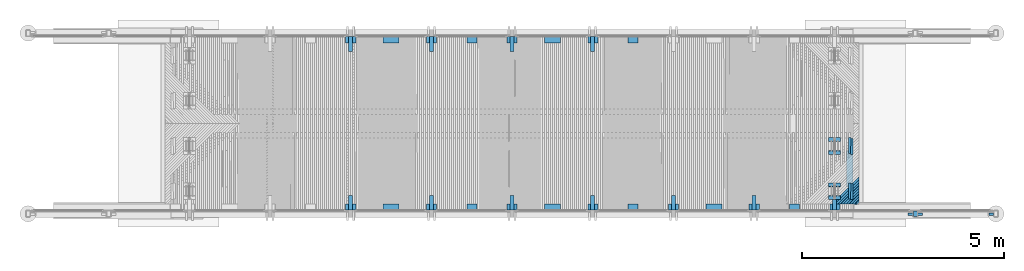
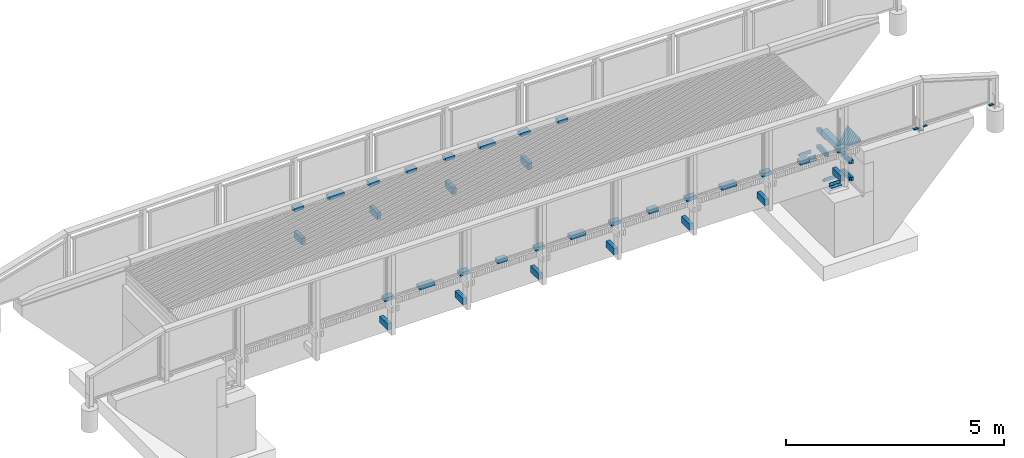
# One storey, part 53 of 65: 58 beams.
"""IFC2X3 building model written with IfcOpenShell, lengths in millimetres."""

from ifc_helpers import new_model, si_unit, frame, origin_with_axes, place, context, subcontext, project, spatial, faceted_brep, material, type_object, element, save


model = new_model("IFC2X3")

# Units and contexts
model_context = context("Model", 3, precision=1e-05, world=origin_with_axes())
body_context = subcontext(model_context, "Body", "Model", "MODEL_VIEW")
ifc_project = project(units=[si_unit("LENGTHUNIT", "METRE", prefix="MILLI"), si_unit("AREAUNIT", "SQUARE_METRE"), si_unit("VOLUMEUNIT", "CUBIC_METRE"), si_unit("MASSUNIT", "GRAM", prefix="KILO"), si_unit("TIMEUNIT", "SECOND"), si_unit("PLANEANGLEUNIT", "RADIAN"), si_unit("SOLIDANGLEUNIT", "STERADIAN"), si_unit("THERMODYNAMICTEMPERATUREUNIT", "DEGREE_CELSIUS"), si_unit("LUMINOUSINTENSITYUNIT", "LUMEN")], contexts=[model_context])

# Site, building, storey
site_placement = place(None, origin_with_axes())
site = spatial("IfcSite", under=ifc_project, at=site_placement, Name="Undefined", CompositionType="ELEMENT")
building_placement = place(site_placement, origin_with_axes())
building = spatial("IfcBuilding", under=site, at=building_placement, Name="Undefined", CompositionType="ELEMENT")
storey_placement = place(building_placement, origin_with_axes())
storey = spatial("IfcBuildingStorey", under=building, at=storey_placement, Name="Undefined", CompositionType="ELEMENT", Elevation=0.0)

# Beams
ifc_material_1 = material(Name="STEEL/AISI316")
beam_type_1 = type_object("IfcBeamType", Name="PL60*10", PredefinedType="NOTDEFINED")
for number, where, z_axis, x_axis in (
    (1, (19940.0034960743, 20109.9999997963, 3147.80999999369), (0.000116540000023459, 0.999999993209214, 0.0), (-0.999999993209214, 0.000116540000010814, 0.0)),
    (2, (18059.9965039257, 20109.9999997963, 3175.9199999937), (-0.000116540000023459, 0.999999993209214, 0.0), (0.999999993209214, 0.000116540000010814, 0.0)),
    (3, (17940.0034960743, 20109.9999997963, 3175.91999999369), (0.000116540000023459, 0.999999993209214, 0.0), (-0.999999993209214, 0.000116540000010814, 0.0)),
):
    element("IfcBeam", number, at=place(storey_placement, frame(where, z_axis=z_axis, x_axis=x_axis)), inside=storey, type_object=beam_type_1, material=ifc_material_1, Name="KAIDEPYLVÄS", ObjectType="PL60*10", context=body_context, shape_type="Brep", body=[
        faceted_brep([(0.0, 5.0, -30.0), (0.0, 5.0, 30.0), (115.000000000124, 5.0, 30.0), (115.00000000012, 5.0, -30.0), (0.0, -5.0, 30.0), (115.000000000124, -5.0, 30.0), (0.0, -5.0, -30.0), (115.00000000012, -5.0, -30.0)], [[[0, 1, 2, 3]], [[1, 4, 5, 2]], [[4, 6, 7, 5]], [[6, 0, 3, 7]], [[5, 7, 3, 2]], [[6, 4, 1, 0]]]),
    ])
beam_type_2 = type_object("IfcBeamType", Name="PL100*10", PredefinedType="NOTDEFINED")
beam_1_placement = place(storey_placement, frame((17999.9999998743, 20055.02, 3117.67000000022), z_axis=(1.0, 0.0, 0.0), x_axis=(0.0, 1.0, 0.0)))
element("IfcBeam", 4, at=beam_1_placement, inside=storey, type_object=beam_type_2, material=ifc_material_1, Name="KAIDEPYLVÄS", ObjectType="PL100*10", context=body_context, shape_type="Brep", body=[
    faceted_brep([(0.0, 5.0, -50.0), (0.0, 5.0, 50.0), (140.0, 5.0, 50.0), (140.0, 5.0, -50.0), (0.0, -5.0, 50.0), (140.0, -5.0, 50.0), (0.0, -5.0, -50.0), (140.0, -5.0, -50.0)], [[[0, 1, 2, 3]], [[1, 4, 5, 2]], [[4, 6, 7, 5]], [[6, 0, 3, 7]], [[5, 7, 3, 2]], [[6, 4, 1, 0]]]),
])
ifc_material_2 = material(Name="TIMBER/Timber_Undefined")
beam_type_3 = type_object("IfcBeamType", Name="150*100", PredefinedType="NOTDEFINED")
for number, where, z_axis, x_axis in (
    (5, (12805.9377995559, 20289.9999999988, 3199.40960826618), (0.0, -1.0, 0.0), (0.999944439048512, 0.0, -0.0105412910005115)),
    (6, (8804.3535367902, 20289.9999999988, 3218.05327472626), (0.0, -1.0, 0.0), (0.999992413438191, 0.0, -0.00389526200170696)),
    (7, (4802.73374412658, 20289.9999999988, 3210.1013407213), (0.0, -1.0, 0.0), (0.9999962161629, 0.0, 0.002750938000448)),
    (8, (4802.73374412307, 24439.9999999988, 3210.10134072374), (0.0, -1.0, 0.0), (0.9999962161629, 0.0, 0.002750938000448)),
    (9, (8804.3535367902, 24439.9999999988, 3218.05327472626), (0.0, -1.0, 0.0), (0.999992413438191, 0.0, -0.00389526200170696)),
):
    element("IfcBeam", number, at=place(storey_placement, frame(where, z_axis=z_axis, x_axis=x_axis)), inside=storey, type_object=beam_type_3, material=ifc_material_2, Name="TÖRMÄYSJOHDE", ObjectType="150*100", context=body_context, shape_type="Brep", body=[
        faceted_brep([(-3.63797880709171e-12, 50.0, -75.0), (-3.63797880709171e-12, 50.0, 75.0), (399.996161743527, 49.9999999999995, 75.0), (399.996161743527, 49.9999999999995, -75.0), (0.0, -49.9999999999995, 75.0), (399.996161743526, -50.0000000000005, 75.0), (0.0, -49.9999999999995, -75.0), (399.996161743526, -50.0000000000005, -75.0)], [[[0, 1, 2, 3]], [[1, 4, 5, 2]], [[4, 6, 7, 5]], [[6, 0, 3, 7]], [[5, 7, 3, 2]], [[6, 4, 1, 0]]]),
    ])
for number, where, z_axis, x_axis in (
    (10, (15881.7966501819, 20289.9999999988, 3166.35655532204), (0.0, -1.0, 0.0), (0.999929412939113, 0.0, -0.0118814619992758)),
    (11, (14881.4642555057, 20289.9999999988, 3178.62153167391), (0.0, -1.0, 0.0), (0.999947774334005, 0.0, -0.0102200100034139)),
    (12, (13881.1128627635, 20289.9999999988, 3189.22438612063), (0.0, -1.0, 0.0), (0.99996337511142, 0.0, -0.00855853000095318)),
    (13, (11880.3641300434, 20289.9999999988, 3205.44361680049), (0.0, -1.0, 0.0), (0.999986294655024, 0.0, -0.00523550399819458)),
    (14, (10879.9723136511, 24439.9999999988, 3211.05994825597), (0.0, -1.0, 0.0), (0.999993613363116, 0.0, -0.00357396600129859)),
    (15, (10879.9723136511, 20289.9999999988, 3211.05994825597), (0.0, -1.0, 0.0), (0.999993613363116, 0.0, -0.00357396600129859)),
    (16, (9879.57254634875, 24439.9999999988, 3215.01406825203), (0.0, -1.0, 0.0), (0.999998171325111, 0.0, -0.00191241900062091)),
    (17, (9879.57254634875, 20289.9999999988, 3215.01406825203), (0.0, -1.0, 0.0), (0.999998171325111, 0.0, -0.00191241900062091)),
    (18, (7878.76020647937, 24439.9999999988, 3217.93563478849), (0.0, -1.0, 0.0), (0.99999900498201, 0.0, 0.00141068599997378)),
    (19, (7878.76020647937, 20289.9999999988, 3217.93563478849), (0.0, -1.0, 0.0), (0.99999900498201, 0.0, 0.00141068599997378)),
    (20, (6878.35315767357, 24439.9999999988, 3216.90307326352), (0.0, -1.0, 0.0), (0.99999528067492, 0.0, 0.00307223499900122)),
    (21, (6878.35315767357, 20289.9999999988, 3216.90307326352), (0.0, -1.0, 0.0), (0.99999528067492, 0.0, 0.00307223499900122)),
    (22, (5877.94920546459, 24439.9999999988, 3214.20828414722), (0.0, -1.0, 0.0), (0.99998879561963, 0.0, 0.00473377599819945)),
    (23, (5877.94920546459, 20289.9999999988, 3214.20828414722), (0.0, -1.0, 0.0), (0.99998879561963, 0.0, 0.00473377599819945)),
    (24, (3877.16163831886, 24439.9999999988, 3203.83205748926), (0.0, -1.0, 0.0), (0.999967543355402, 0.0, 0.00805681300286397)),
    (25, (3877.16163831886, 20289.9999999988, 3203.83205748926), (0.0, -1.0, 0.0), (0.999967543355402, 0.0, 0.00805681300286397)),
):
    element("IfcBeam", number, at=place(storey_placement, frame(where, z_axis=z_axis, x_axis=x_axis)), inside=storey, type_object=beam_type_3, material=ifc_material_2, Name="TÖRMÄYSJOHDE", ObjectType="150*100", context=body_context, shape_type="Brep", body=[
        faceted_brep([(-3.63797880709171e-12, 50.0, -75.0), (-3.63797880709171e-12, 50.0, 75.0), (250.000589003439, 50.0000000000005, 75.0), (250.000589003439, 50.0000000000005, -75.0), (0.0, -49.9999999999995, 75.0), (250.000589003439, -50.0, 75.0), (0.0, -49.9999999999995, -75.0), (250.000589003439, -50.0, -75.0)], [[[0, 1, 2, 3]], [[1, 4, 5, 2]], [[4, 6, 7, 5]], [[6, 0, 3, 7]], [[5, 7, 3, 2]], [[6, 4, 1, 0]]]),
    ])
beam_type_4 = type_object("IfcBeamType", Name="150*150", PredefinedType="NOTDEFINED")
beam_2_placement = place(storey_placement, frame((16375.0061224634, 20795.0011300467, 2658.99214114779), z_axis=(-4.45050000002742e-05, 0.0, 0.999999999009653), x_axis=(0.0, 1.0, 0.0)))
element("IfcBeam", 26, at=beam_2_placement, inside=storey, type_object=beam_type_4, material=ifc_material_2, Name="BEAM", ObjectType="150*150", context=body_context, shape_type="Brep", body=[
    faceted_brep([(3.63797880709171e-12, 75.0000000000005, -75.0), (3.63797880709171e-12, 75.0000000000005, 75.0), (900.0, 75.0, 75.0000000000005), (900.0, 74.9999999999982, -74.9999999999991), (0.0, -75.0000000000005, 75.0), (900.0, -75.0000000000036, 75.0000000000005), (0.0, -75.0000000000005, -75.0), (900.0, -75.0, -74.9999999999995)], [[[0, 1, 2, 3]], [[1, 4, 5, 2]], [[4, 6, 7, 5]], [[6, 0, 3, 7]], [[5, 7, 3, 2]], [[6, 4, 1, 0]]]),
])
beam_type_5 = type_object("IfcBeamType", Name="180*100", PredefinedType="NOTDEFINED")
for number, where, z_axis, x_axis in (
    (27, (16000.0000678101, 20215.0120919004, 2385.26004297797), (0.0, 0.0, 1.0), (0.0, 1.0, 0.0)),
    (28, (14000.0000678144, 20215.0120919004, 2408.46176690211), (0.0, 0.0, 1.0), (0.0, 1.0, 0.0)),
    (29, (12000.0000678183, 20215.0120919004, 2425.03388065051), (0.0, 0.0, 1.0), (0.0, 1.0, 0.0)),
):
    element("IfcBeam", number, at=place(storey_placement, frame(where, z_axis=z_axis, x_axis=x_axis)), inside=storey, type_object=beam_type_5, material=ifc_material_2, Name="KAIDEPYLVÄS", ObjectType="180*100", context=body_context, shape_type="Brep", body=[
        faceted_brep([(0.0, 50.0, -90.0), (0.0, 50.0, 90.0), (363.740000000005, 50.0, 90.0), (363.740000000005, 50.0, -90.0), (0.0, -50.0, 90.0), (363.740000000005, -50.0, 90.0), (0.0, -50.0, -90.0), (363.740000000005, -50.0, -90.0)], [[[0, 1, 2, 3]], [[1, 4, 5, 2]], [[4, 6, 7, 5]], [[6, 0, 3, 7]], [[5, 7, 3, 2]], [[6, 4, 1, 0]]]),
    ])
beam_3_placement = place(storey_placement, frame((10000.0000678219, 24514.9879080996, 2434.97693042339), z_axis=(0.0, 0.0, 1.0), x_axis=(0.0, -1.0, 0.0)))
element("IfcBeam", 30, at=beam_3_placement, inside=storey, type_object=beam_type_5, material=ifc_material_2, Name="KAIDEPYLVÄS", ObjectType="180*100", context=body_context, shape_type="Brep", body=[
    faceted_brep([(0.0, 50.0, -90.0), (0.0, 50.0, 90.0), (362.490000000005, 50.0, 90.0), (362.490000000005, 50.0, -90.0), (0.0, -50.0, 90.0), (362.490000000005, -50.0, 90.0), (0.0, -50.0, -90.0), (362.490000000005, -50.0, -90.0)], [[[0, 1, 2, 3]], [[1, 4, 5, 2]], [[4, 6, 7, 5]], [[6, 0, 3, 7]], [[5, 7, 3, 2]], [[6, 4, 1, 0]]]),
])
beam_4_placement = place(storey_placement, frame((10000.0000678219, 20215.0120919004, 2434.97693042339), z_axis=(0.0, 0.0, 1.0), x_axis=(0.0, 1.0, 0.0)))
element("IfcBeam", 31, at=beam_4_placement, inside=storey, type_object=beam_type_5, material=ifc_material_2, Name="KAIDEPYLVÄS", ObjectType="180*100", context=body_context, shape_type="Brep", body=[
    faceted_brep([(0.0, 50.0, -90.0), (0.0, 50.0, 90.0), (363.740000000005, 50.0, 90.0), (363.740000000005, 50.0, -90.0), (0.0, -50.0, 90.0), (363.740000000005, -50.0, 90.0), (0.0, -50.0, -90.0), (363.740000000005, -50.0, -90.0)], [[[0, 1, 2, 3]], [[1, 4, 5, 2]], [[4, 6, 7, 5]], [[6, 0, 3, 7]], [[5, 7, 3, 2]], [[6, 4, 1, 0]]]),
])
beam_5_placement = place(storey_placement, frame((8000.00006782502, 24514.9879080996, 2438.29124390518), z_axis=(0.0, 0.0, 1.0), x_axis=(0.0, -1.0, 0.0)))
element("IfcBeam", 32, at=beam_5_placement, inside=storey, type_object=beam_type_5, material=ifc_material_2, Name="KAIDEPYLVÄS", ObjectType="180*100", context=body_context, shape_type="Brep", body=[
    faceted_brep([(0.0, 50.0, -90.0), (0.0, 50.0, 90.0), (362.490000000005, 50.0, 90.0), (362.490000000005, 50.0, -90.0), (0.0, -50.0, 90.0), (362.490000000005, -50.0, 90.0), (0.0, -50.0, -90.0), (362.490000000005, -50.0, -90.0)], [[[0, 1, 2, 3]], [[1, 4, 5, 2]], [[4, 6, 7, 5]], [[6, 0, 3, 7]], [[5, 7, 3, 2]], [[6, 4, 1, 0]]]),
])
beam_6_placement = place(storey_placement, frame((8000.00006782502, 20215.0120919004, 2438.29124390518), z_axis=(0.0, 0.0, 1.0), x_axis=(0.0, 1.0, 0.0)))
element("IfcBeam", 33, at=beam_6_placement, inside=storey, type_object=beam_type_5, material=ifc_material_2, Name="KAIDEPYLVÄS", ObjectType="180*100", context=body_context, shape_type="Brep", body=[
    faceted_brep([(0.0, 50.0, -90.0), (0.0, 50.0, 90.0), (363.740000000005, 50.0, 90.0), (363.740000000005, 50.0, -90.0), (0.0, -50.0, 90.0), (363.740000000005, -50.0, 90.0), (0.0, -50.0, -90.0), (363.740000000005, -50.0, -90.0)], [[[0, 1, 2, 3]], [[1, 4, 5, 2]], [[4, 6, 7, 5]], [[6, 0, 3, 7]], [[5, 7, 3, 2]], [[6, 4, 1, 0]]]),
])
beam_7_placement = place(storey_placement, frame((6000.00006782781, 24514.9879080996, 2434.97693031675), z_axis=(0.0, 0.0, 1.0), x_axis=(0.0, -1.0, 0.0)))
element("IfcBeam", 34, at=beam_7_placement, inside=storey, type_object=beam_type_5, material=ifc_material_2, Name="KAIDEPYLVÄS", ObjectType="180*100", context=body_context, shape_type="Brep", body=[
    faceted_brep([(0.0, 50.0, -90.0), (0.0, 50.0, 90.0), (362.490000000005, 50.0, 90.0), (362.490000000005, 50.0, -90.0), (0.0, -50.0, 90.0), (362.490000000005, -50.0, 90.0), (0.0, -50.0, -90.0), (362.490000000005, -50.0, -90.0)], [[[0, 1, 2, 3]], [[1, 4, 5, 2]], [[4, 6, 7, 5]], [[6, 0, 3, 7]], [[5, 7, 3, 2]], [[6, 4, 1, 0]]]),
])
beam_8_placement = place(storey_placement, frame((6000.00006782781, 20215.0120919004, 2434.97693031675), z_axis=(0.0, 0.0, 1.0), x_axis=(0.0, 1.0, 0.0)))
element("IfcBeam", 35, at=beam_8_placement, inside=storey, type_object=beam_type_5, material=ifc_material_2, Name="KAIDEPYLVÄS", ObjectType="180*100", context=body_context, shape_type="Brep", body=[
    faceted_brep([(0.0, 50.0, -90.0), (0.0, 50.0, 90.0), (363.740000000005, 50.0, 90.0), (363.740000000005, 50.0, -90.0), (0.0, -50.0, 90.0), (363.740000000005, -50.0, 90.0), (0.0, -50.0, -90.0), (363.740000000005, -50.0, -90.0)], [[[0, 1, 2, 3]], [[1, 4, 5, 2]], [[4, 6, 7, 5]], [[6, 0, 3, 7]], [[5, 7, 3, 2]], [[6, 4, 1, 0]]]),
])
beam_9_placement = place(storey_placement, frame((4000.00006783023, 24514.9879080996, 2425.03388043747), z_axis=(0.0, 0.0, 1.0), x_axis=(0.0, -1.0, 0.0)))
element("IfcBeam", 36, at=beam_9_placement, inside=storey, type_object=beam_type_5, material=ifc_material_2, Name="KAIDEPYLVÄS", ObjectType="180*100", context=body_context, shape_type="Brep", body=[
    faceted_brep([(0.0, 50.0, -90.0), (0.0, 50.0, 90.0), (362.490000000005, 50.0, 90.0), (362.490000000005, 50.0, -90.0), (0.0, -50.0, 90.0), (362.490000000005, -50.0, 90.0), (0.0, -50.0, -90.0), (362.490000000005, -50.0, -90.0)], [[[0, 1, 2, 3]], [[1, 4, 5, 2]], [[4, 6, 7, 5]], [[6, 0, 3, 7]], [[5, 7, 3, 2]], [[6, 4, 1, 0]]]),
])
beam_10_placement = place(storey_placement, frame((4000.00006783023, 20215.0120919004, 2425.03388043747), z_axis=(0.0, 0.0, 1.0), x_axis=(0.0, 1.0, 0.0)))
element("IfcBeam", 37, at=beam_10_placement, inside=storey, type_object=beam_type_5, material=ifc_material_2, Name="KAIDEPYLVÄS", ObjectType="180*100", context=body_context, shape_type="Brep", body=[
    faceted_brep([(0.0, 50.0, -90.0), (0.0, 50.0, 90.0), (363.740000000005, 50.0, 90.0), (363.740000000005, 50.0, -90.0), (0.0, -50.0, 90.0), (363.740000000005, -50.0, 90.0), (0.0, -50.0, -90.0), (363.740000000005, -50.0, -90.0)], [[[0, 1, 2, 3]], [[1, 4, 5, 2]], [[4, 6, 7, 5]], [[6, 0, 3, 7]], [[5, 7, 3, 2]], [[6, 4, 1, 0]]]),
])
beam_type_6 = type_object("IfcBeamType", Name="50*50", PredefinedType="NOTDEFINED")
beam_11_placement = place(storey_placement, frame((18531.7317784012, 22364.5001003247, 3144.0077743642), z_axis=(0.706781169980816, -0.706981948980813, -0.0252369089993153), x_axis=(-0.707258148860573, -0.706948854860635, -0.00303767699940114)))
element("IfcBeam", 38, at=beam_11_placement, inside=storey, type_object=beam_type_6, material=ifc_material_2, Name="BEAM", ObjectType="50*50", context=body_context, shape_type="Brep", body=[
    faceted_brep([(2802.92643296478, -25.0, 25.0000000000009), (2852.92877373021, -25.0000000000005, -24.9999999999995), (2854.34301907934, 24.9999999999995, -25.0), (2804.3406783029, 25.0, 25.0000000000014), (2705.75872714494, 25.0, -24.9999999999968), (2755.72500686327, 25.0000000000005, 25.0000000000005), (2756.83447595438, -25.0, 25.0000000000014), (2706.86819623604, -25.0, -24.9999999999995)], [[[0, 1, 2, 3]], [[3, 2, 4, 5]], [[0, 3, 5, 6]], [[1, 0, 6, 7]], [[2, 1, 7, 4]], [[6, 5, 4, 7]]]),
])
beam_12_placement = place(storey_placement, frame((18461.0182922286, 22364.5001003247, 3145.24068549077), z_axis=(0.706784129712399, -0.70698194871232, -0.0251538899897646), x_axis=(-0.70725778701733, -0.706948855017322, -0.00312075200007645)))
element("IfcBeam", 39, at=beam_12_placement, inside=storey, type_object=beam_type_6, material=ifc_material_2, Name="BEAM", ObjectType="50*50", context=body_context, shape_type="Brep", body=[
    faceted_brep([(2802.92643296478, -25.0, 25.0000000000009), (2852.92877373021, -25.0000000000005, -24.9999999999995), (2854.34301907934, 24.9999999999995, -25.0), (2804.3406783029, 25.0, 25.0000000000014), (2605.78153801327, 24.9999999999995, -25.0000000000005), (2655.74805253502, 24.9999999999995, 24.9999999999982), (2656.84922092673, -25.0000000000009, 24.9999999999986), (2606.88270640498, -25.0000000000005, -25.0000000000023)], [[[0, 1, 2, 3]], [[3, 2, 4, 5]], [[0, 3, 5, 6]], [[1, 0, 6, 7]], [[2, 1, 7, 4]], [[6, 5, 4, 7]]]),
])
beam_13_placement = place(storey_placement, frame((18390.3046617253, 22364.5001003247, 3146.4652905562), z_axis=(0.70678707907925, -0.706981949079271, -0.0250708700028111), x_axis=(-0.707257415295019, -0.70694885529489, -0.00320382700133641)))
element("IfcBeam", 40, at=beam_13_placement, inside=storey, type_object=beam_type_6, material=ifc_material_2, Name="BEAM", ObjectType="50*50", context=body_context, shape_type="Brep", body=[
    faceted_brep([(2802.92643296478, -25.0, 25.0000000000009), (2852.92877373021, -25.0000000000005, -24.9999999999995), (2854.34301907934, 24.9999999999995, -25.0), (2804.3406783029, 25.0, 25.0000000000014), (2505.80407790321, 25.0000000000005, -25.0), (2555.77082719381, 25.0000000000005, 24.9999999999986), (2556.86369484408, -24.9999999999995, 24.9999999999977), (2506.89694555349, -24.9999999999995, -24.9999999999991)], [[[0, 1, 2, 3]], [[3, 2, 4, 5]], [[0, 3, 5, 6]], [[1, 0, 6, 7]], [[2, 1, 7, 4]], [[6, 5, 4, 7]]]),
])
beam_14_placement = place(storey_placement, frame((18319.5908878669, 22364.5001003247, 3147.68158954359), z_axis=(0.706790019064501, -0.706981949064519, -0.0249878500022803), x_axis=(-0.707257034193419, -0.706948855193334, -0.00328690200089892)))
element("IfcBeam", 41, at=beam_14_placement, inside=storey, type_object=beam_type_6, material=ifc_material_2, Name="BEAM", ObjectType="50*50", context=body_context, shape_type="Brep", body=[
    faceted_brep([(2802.92643296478, -25.0, 25.0000000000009), (2852.92877373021, -25.0000000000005, -24.9999999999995), (2854.34301907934, 24.9999999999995, -25.0), (2804.3406783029, 25.0, 25.0000000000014), (2405.82634224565, 24.9999999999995, -24.9999999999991), (2455.79332630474, 25.0, 25.0000000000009), (2456.87789321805, -25.0, 25.0000000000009), (2406.91090915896, -24.9999999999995, -24.9999999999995)], [[[0, 1, 2, 3]], [[3, 2, 4, 5]], [[0, 3, 5, 6]], [[1, 0, 6, 7]], [[2, 1, 7, 4]], [[6, 5, 4, 7]]]),
])
beam_15_placement = place(storey_placement, frame((18248.8769716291, 22364.5001003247, 3148.88958243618), z_axis=(0.706792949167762, -0.706981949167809, -0.0249048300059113), x_axis=(-0.707256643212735, -0.706948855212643, -0.00336997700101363)))
element("IfcBeam", 42, at=beam_15_placement, inside=storey, type_object=beam_type_6, material=ifc_material_2, Name="BEAM", ObjectType="50*50", context=body_context, shape_type="Brep", body=[
    faceted_brep([(2802.92643296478, -25.0, 25.0000000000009), (2852.92877373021, -25.0000000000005, -24.9999999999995), (2854.34301907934, 24.9999999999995, -25.0), (2804.3406783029, 25.0, 25.0000000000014), (2305.84833008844, 25.0, -25.0000000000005), (2355.81554891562, 24.9999999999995, 25.0000000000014), (2356.89181509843, -25.0000000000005, 25.0000000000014), (2306.92459627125, -25.0, -25.0000000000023)], [[[0, 1, 2, 3]], [[3, 2, 4, 5]], [[0, 3, 5, 6]], [[1, 0, 6, 7]], [[2, 1, 7, 4]], [[6, 5, 4, 7]]]),
])
beam_16_placement = place(storey_placement, frame((18178.1629139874, 22364.5001003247, 3150.08926921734), z_axis=(0.706795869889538, -0.706981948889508, -0.0248218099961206), x_axis=(-0.707256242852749, -0.706948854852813, -0.00345305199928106)))
element("IfcBeam", 43, at=beam_16_placement, inside=storey, type_object=beam_type_6, material=ifc_material_2, Name="BEAM", ObjectType="50*50", context=body_context, shape_type="Brep", body=[
    faceted_brep([(2802.92643296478, -25.0, 25.0000000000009), (2852.92877373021, -25.0000000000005, -24.9999999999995), (2854.34301907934, 24.9999999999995, -25.0), (2804.3406783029, 25.0, 25.0000000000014), (2205.87003704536, 25.0, -25.0), (2255.8374906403, 24.9999999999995, 24.9999999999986), (2256.90545609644, -25.0000000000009, 25.0000000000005), (2206.93800250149, -25.0, -25.0000000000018)], [[[0, 1, 2, 3]], [[3, 2, 4, 5]], [[0, 3, 5, 6]], [[1, 0, 6, 7]], [[2, 1, 7, 4]], [[6, 5, 4, 7]]]),
])
beam_17_placement = place(storey_placement, frame((18107.4487159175, 22364.5001003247, 3151.28064987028), z_axis=(0.706798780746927, -0.706981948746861, -0.0247387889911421), x_axis=(-0.707255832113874, -0.706948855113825, -0.00353612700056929)))
element("IfcBeam", 44, at=beam_17_placement, inside=storey, type_object=beam_type_6, material=ifc_material_2, Name="BEAM", ObjectType="50*50", context=body_context, shape_type="Brep", body=[
    faceted_brep([(2802.92643296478, -25.0, 25.0000000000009), (2852.92877373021, -25.0000000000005, -24.9999999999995), (2854.34301907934, 24.9999999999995, -25.0), (2804.3406783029, 25.0, 25.0000000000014), (2105.891463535, 25.0000000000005, -25.0000000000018), (2155.85915193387, 25.0, 24.9999999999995), (2156.91881662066, -24.9999999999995, 24.9999999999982), (2106.95112822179, -24.9999999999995, -25.0000000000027)], [[[0, 1, 2, 3]], [[3, 2, 4, 5]], [[0, 3, 5, 6]], [[1, 0, 6, 7]], [[2, 1, 7, 4]], [[6, 5, 4, 7]]]),
])
beam_18_placement = place(storey_placement, frame((18036.7343783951, 22364.5001003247, 3152.46372437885), z_axis=(0.706801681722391, -0.706981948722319, -0.024655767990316), x_axis=(-0.707255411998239, -0.70694885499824, -0.00361920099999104)))
element("IfcBeam", 45, at=beam_18_placement, inside=storey, type_object=beam_type_6, material=ifc_material_2, Name="BEAM", ObjectType="50*50", context=body_context, shape_type="Brep", body=[
    faceted_brep([(2802.92643296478, -25.0, 25.0000000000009), (2852.92877373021, -25.0000000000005, -24.9999999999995), (2854.34301907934, 24.9999999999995, -25.0), (2804.3406783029, 25.0, 25.0000000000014), (2005.91260364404, 25.0, -25.0000000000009), (2055.88052681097, 24.9999999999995, 24.9999999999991), (2056.9318907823, -25.0, 24.9999999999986), (2006.96396761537, -25.0000000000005, -25.0000000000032)], [[[0, 1, 2, 3]], [[3, 2, 4, 5]], [[0, 3, 5, 6]], [[1, 0, 6, 7]], [[2, 1, 7, 4]], [[6, 5, 4, 7]]]),
])
beam_19_placement = place(storey_placement, frame((17966.0199023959, 22364.5001003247, 3153.6384927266), z_axis=(0.70680457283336, -0.706981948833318, -0.0245727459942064), x_axis=(-0.707254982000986, -0.706948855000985, -0.00370227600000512)))
element("IfcBeam", 46, at=beam_19_placement, inside=storey, type_object=beam_type_6, material=ifc_material_2, Name="BEAM", ObjectType="50*50", context=body_context, shape_type="Brep", body=[
    faceted_brep([(2802.92643296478, -25.0, 25.0000000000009), (2852.92877373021, -25.0000000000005, -24.9999999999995), (2854.34301907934, 24.9999999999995, -25.0), (2804.3406783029, 25.0, 25.0000000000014), (1905.9334562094, 25.0, -25.0000000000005), (1955.90161414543, 24.9999999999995, 24.9999999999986), (1956.94467730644, -25.0, 24.9999999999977), (1906.97651937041, -25.0, -24.9999999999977)], [[[0, 1, 2, 3]], [[3, 2, 4, 5]], [[0, 3, 5, 6]], [[1, 0, 6, 7]], [[2, 1, 7, 4]], [[6, 5, 4, 7]]]),
])
ifc_material_3 = material(Name="STEEL/S235JR")
beam_type_7 = type_object("IfcBeamType", Name="L100*10", PredefinedType="NOTDEFINED")
for number, where, z_axis, x_axis, name in (
    (47, (15850.0, 21962.5, 2047.33), (0.0, 1.0, 0.0), (1.0, 0.0, 0.0), "BEAM"),
    (48, (15850.0, 21647.5, 2047.33), (0.0, 0.0, 1.0), (1.0, 0.0, 0.0), "BEAM"),
    (49, (15850.0, 20842.5, 2025.33), (0.0, 1.0, 0.0), (1.0, 0.0, 0.0), "BEAM"),
    (50, (15850.0, 20527.5, 2025.33), (0.0, 0.0, 1.0), (1.0, 0.0, 0.0), "BEAM"),
):
    element("IfcBeam", number, at=place(storey_placement, frame(where, z_axis=z_axis, x_axis=x_axis)), inside=storey, type_object=beam_type_7, material=ifc_material_3, Name=name, ObjectType="L100*10", context=body_context, shape_type="Brep", body=[
        faceted_brep([(0.0, 50.0, -50.0), (0.0, 50.0, 50.0), (300.0, 50.0, 50.0), (300.0, 50.0, -50.0), (0.0, 40.0, 50.0), (300.0, 40.0, 50.0), (0.0, 40.0, -40.0), (300.0, 40.0, -40.0), (0.0, -50.0, -40.0), (300.0, -50.0, -40.0), (0.0, -50.0, -50.0), (300.0, -50.0, -50.0)], [[[0, 1, 2, 3]], [[1, 4, 5, 2]], [[4, 6, 7, 5]], [[6, 8, 9, 7]], [[8, 10, 11, 9]], [[10, 0, 3, 11]], [[5, 7, 9, 11, 3, 2]], [[10, 8, 6, 4, 1, 0]]]),
    ])
beam_type_8 = type_object("IfcBeamType", Name="100*60", PredefinedType="NOTDEFINED")
beam_20_placement = place(storey_placement, frame((16380.01, 21617.5, 2533.62000000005), z_axis=(0.0, 0.0, 1.0), x_axis=(0.0, 1.0, 0.0)))
element("IfcBeam", 51, at=beam_20_placement, inside=storey, type_object=beam_type_8, material=ifc_material_2, Name="BEAM", ObjectType="100*60", context=body_context, shape_type="Brep", body=[
    faceted_brep([(0.0, 30.0, -50.0), (0.0, 30.0, 50.0), (395.0, 30.0, 50.0), (395.0, 30.0, -50.0), (395.0, -25.2500000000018, 50.0), (395.0, -25.2500000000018, -50.0), (0.0, -15.2499998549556, -50.0), (0.0, -15.2499998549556, 50.0)], [[[0, 1, 2, 3]], [[3, 2, 4, 5]], [[0, 3, 5, 6]], [[1, 0, 6, 7]], [[2, 1, 7, 4]], [[6, 5, 4, 7]]]),
])
beam_21_placement = place(storey_placement, frame((16420.01, 21597.5, 2533.62000000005), z_axis=(0.0, 0.0, 1.0), x_axis=(0.0, 1.0, 0.0)))
element("IfcBeam", 52, at=beam_21_placement, inside=storey, type_object=beam_type_8, material=ifc_material_2, Name="BEAM", ObjectType="100*60", context=body_context, shape_type="Brep", body=[
    faceted_brep([(0.0, -30.0, 50.0), (0.0, -30.0, -50.0), (395.0, -30.0, -50.0), (395.0, -30.0, 50.0), (395.0, 15.2563291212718, 50.0), (0.0, 25.2563292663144, 50.0), (0.0, 25.2563292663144, -50.0), (395.0, 15.2563291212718, -50.0)], [[[0, 1, 2, 3]], [[0, 3, 4, 5]], [[1, 0, 5, 6]], [[2, 1, 6, 7]], [[3, 2, 7, 4]], [[6, 5, 4, 7]]]),
])
beam_22_placement = place(storey_placement, frame((16380.0, 21617.5, 2055.33), z_axis=(0.0, 0.0, 1.0), x_axis=(0.0, 1.0, 0.0)))
element("IfcBeam", 53, at=beam_22_placement, inside=storey, type_object=beam_type_8, material=ifc_material_2, Name="BEAM", ObjectType="100*60", context=body_context, shape_type="Brep", body=[
    faceted_brep([(0.0, 30.0, -50.0), (0.0, 30.0, 50.0), (395.0, 30.0, 50.0), (395.0, 30.0, -50.0), (395.0, -25.2500000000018, 50.0), (395.0, -25.2500000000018, -50.0), (0.0, -15.2499998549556, -50.0), (0.0, -15.2499998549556, 50.0)], [[[0, 1, 2, 3]], [[3, 2, 4, 5]], [[0, 3, 5, 6]], [[1, 0, 6, 7]], [[2, 1, 7, 4]], [[6, 5, 4, 7]]]),
])
beam_23_placement = place(storey_placement, frame((16420.0, 21597.5, 2055.33), z_axis=(0.0, 0.0, 1.0), x_axis=(0.0, 1.0, 0.0)))
element("IfcBeam", 54, at=beam_23_placement, inside=storey, type_object=beam_type_8, material=ifc_material_2, Name="BEAM", ObjectType="100*60", context=body_context, shape_type="Brep", body=[
    faceted_brep([(0.0, -30.0, 50.0), (0.0, -30.0, -50.0), (395.0, -30.0, -50.0), (395.0, -30.0, 50.0), (395.0, 15.2563291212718, 50.0), (0.0, 25.2563292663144, 50.0), (0.0, 25.2563292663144, -50.0), (395.0, 15.2563291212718, -50.0)], [[[0, 1, 2, 3]], [[0, 3, 4, 5]], [[1, 0, 5, 6]], [[2, 1, 6, 7]], [[3, 2, 7, 4]], [[6, 5, 4, 7]]]),
])
beam_24_placement = place(storey_placement, frame((16380.01, 20497.5, 2533.62000000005), z_axis=(0.0, 0.0, 1.0), x_axis=(0.0, 1.0, 0.0)))
element("IfcBeam", 55, at=beam_24_placement, inside=storey, type_object=beam_type_8, material=ifc_material_2, Name="BEAM", ObjectType="100*60", context=body_context, shape_type="Brep", body=[
    faceted_brep([(0.0, 30.0, -50.0), (0.0, 30.0, 50.0), (395.0, 30.0, 50.0), (395.0, 30.0, -50.0), (395.0, -25.2500000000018, 50.0), (395.0, -25.2500000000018, -50.0), (0.0, -15.2499998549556, -50.0), (0.0, -15.2499998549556, 50.0)], [[[0, 1, 2, 3]], [[3, 2, 4, 5]], [[0, 3, 5, 6]], [[1, 0, 6, 7]], [[2, 1, 7, 4]], [[6, 5, 4, 7]]]),
])
beam_25_placement = place(storey_placement, frame((16420.01, 20477.5, 2533.62000000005), z_axis=(0.0, 0.0, 1.0), x_axis=(0.0, 1.0, 0.0)))
element("IfcBeam", 56, at=beam_25_placement, inside=storey, type_object=beam_type_8, material=ifc_material_2, Name="BEAM", ObjectType="100*60", context=body_context, shape_type="Brep", body=[
    faceted_brep([(0.0, -30.0, 50.0), (0.0, -30.0, -50.0), (395.0, -30.0, -50.0), (395.0, -30.0, 50.0), (395.0, 15.2563291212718, 50.0), (0.0, 25.2563292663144, 50.0), (0.0, 25.2563292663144, -50.0), (395.0, 15.2563291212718, -50.0)], [[[0, 1, 2, 3]], [[0, 3, 4, 5]], [[1, 0, 5, 6]], [[2, 1, 6, 7]], [[3, 2, 7, 4]], [[6, 5, 4, 7]]]),
])
beam_26_placement = place(storey_placement, frame((16380.0, 20497.5, 2055.33), z_axis=(0.0, 0.0, 1.0), x_axis=(0.0, 1.0, 0.0)))
element("IfcBeam", 57, at=beam_26_placement, inside=storey, type_object=beam_type_8, material=ifc_material_2, Name="BEAM", ObjectType="100*60", context=body_context, shape_type="Brep", body=[
    faceted_brep([(0.0, 30.0, -50.0), (0.0, 30.0, 50.0), (395.0, 30.0, 50.0), (395.0, 30.0, -50.0), (395.0, -25.2500000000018, 50.0), (395.0, -25.2500000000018, -50.0), (0.0, -15.2499998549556, -50.0), (0.0, -15.2499998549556, 50.0)], [[[0, 1, 2, 3]], [[3, 2, 4, 5]], [[0, 3, 5, 6]], [[1, 0, 6, 7]], [[2, 1, 7, 4]], [[6, 5, 4, 7]]]),
])
beam_27_placement = place(storey_placement, frame((16420.0, 20477.5, 2055.33), z_axis=(0.0, 0.0, 1.0), x_axis=(0.0, 1.0, 0.0)))
element("IfcBeam", 58, at=beam_27_placement, inside=storey, type_object=beam_type_8, material=ifc_material_2, Name="BEAM", ObjectType="100*60", context=body_context, shape_type="Brep", body=[
    faceted_brep([(0.0, -30.0, 50.0), (0.0, -30.0, -50.0), (395.0, -30.0, -50.0), (395.0, -30.0, 50.0), (395.0, 15.2563291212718, 50.0), (0.0, 25.2563292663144, 50.0), (0.0, 25.2563292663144, -50.0), (395.0, 15.2563291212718, -50.0)], [[[0, 1, 2, 3]], [[0, 3, 4, 5]], [[1, 0, 5, 6]], [[2, 1, 6, 7]], [[3, 2, 7, 4]], [[6, 5, 4, 7]]]),
])

save(model, "model.ifc")
